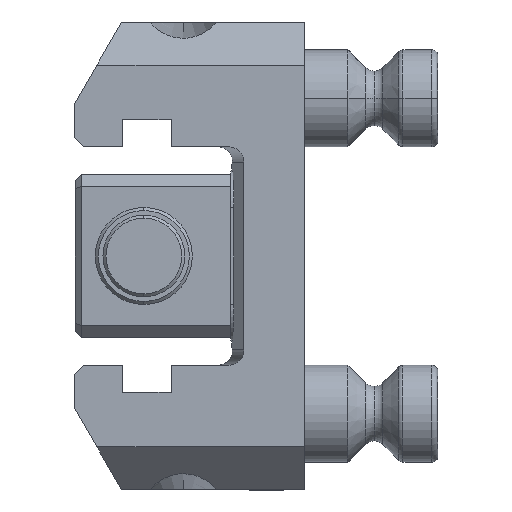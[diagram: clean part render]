
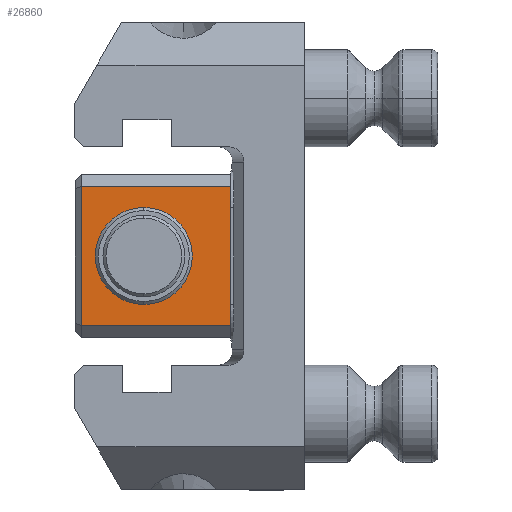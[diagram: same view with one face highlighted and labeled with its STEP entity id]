
A CAD part, left-side view. The second image highlights one B-rep face of the part: STEP entity #26860.
In plain terms, the highlighted planar face has unit normal (-1, 0, 0).
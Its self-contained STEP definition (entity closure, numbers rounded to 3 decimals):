
#498 = VERTEX_POINT ( 'NONE', #15284 ) ;
#716 = CARTESIAN_POINT ( 'NONE',  ( -7.5, 36.85, -11.5 ) ) ;
#1129 = VECTOR ( 'NONE', #35674, 1000. ) ;
#1675 = LINE ( 'NONE', #41376, #47918 ) ;
#1694 = CIRCLE ( 'NONE', #29201, 8. ) ;
#3660 = DIRECTION ( 'NONE',  ( 0., 0., -1. ) ) ;
#4103 = CARTESIAN_POINT ( 'NONE',  ( -7.5, 12.2, 11.5 ) ) ;
#6088 = ORIENTED_EDGE ( 'NONE', *, *, #47693, .F. ) ;
#10627 = EDGE_CURVE ( 'NONE', #28646, #25577, #30007, .T. ) ;
#11080 = PLANE ( 'NONE',  #32238 ) ;
#11829 = ORIENTED_EDGE ( 'NONE', *, *, #30235, .T. ) ;
#13612 = CARTESIAN_POINT ( 'NONE',  ( -7.5, 12.2, -13.5 ) ) ;
#14004 = DIRECTION ( 'NONE',  ( 1., 0., 0. ) ) ;
#14966 = LINE ( 'NONE', #716, #22413 ) ;
#15074 = AXIS2_PLACEMENT_3D ( 'NONE', #39885, #14004, #40381 ) ;
#15284 = CARTESIAN_POINT ( 'NONE',  ( -7.5, 12.2, -11.5 ) ) ;
#16163 = VERTEX_POINT ( 'NONE', #27721 ) ;
#16699 = ORIENTED_EDGE ( 'NONE', *, *, #26837, .T. ) ;
#18638 = CARTESIAN_POINT ( 'NONE',  ( -7.5, 26.5, 0. ) ) ;
#19794 = ORIENTED_EDGE ( 'NONE', *, *, #20557, .T. ) ;
#20557 = EDGE_CURVE ( 'NONE', #25577, #28646, #1694, .T. ) ;
#21510 = DIRECTION ( 'NONE',  ( 0., 0., -1. ) ) ;
#22413 = VECTOR ( 'NONE', #3660, 1000. ) ;
#24058 = EDGE_LOOP ( 'NONE', ( #11829, #31291, #16699, #6088 ) ) ;
#24325 = DIRECTION ( 'NONE',  ( 0., 0., 1. ) ) ;
#24954 = VECTOR ( 'NONE', #21510, 1000. ) ;
#25577 = VERTEX_POINT ( 'NONE', #29020 ) ;
#26232 = CARTESIAN_POINT ( 'NONE',  ( -7.5, 26.5, -8. ) ) ;
#26300 = DIRECTION ( 'NONE',  ( 1., 0., 0. ) ) ;
#26837 = EDGE_CURVE ( 'NONE', #16163, #498, #1675, .T. ) ;
#26860 = ADVANCED_FACE ( 'NONE', ( #34462, #35362 ), #11080, .T. ) ;
#27721 = CARTESIAN_POINT ( 'NONE',  ( -7.5, 36.85, -11.5 ) ) ;
#28248 = DIRECTION ( 'NONE',  ( -1., 0., 0. ) ) ;
#28646 = VERTEX_POINT ( 'NONE', #26232 ) ;
#29020 = CARTESIAN_POINT ( 'NONE',  ( -7.5, 26.5, 8. ) ) ;
#29201 = AXIS2_PLACEMENT_3D ( 'NONE', #18638, #26300, #33899 ) ;
#30007 = CIRCLE ( 'NONE', #15074, 8. ) ;
#30235 = EDGE_CURVE ( 'NONE', #43059, #35625, #35409, .T. ) ;
#30467 = EDGE_CURVE ( 'NONE', #35625, #16163, #14966, .T. ) ;
#31291 = ORIENTED_EDGE ( 'NONE', *, *, #30467, .T. ) ;
#32238 = AXIS2_PLACEMENT_3D ( 'NONE', #46713, #28248, #24325 ) ;
#33899 = DIRECTION ( 'NONE',  ( 0., 0., 1. ) ) ;
#34462 = FACE_BOUND ( 'NONE', #40590, .T. ) ;
#35362 = FACE_OUTER_BOUND ( 'NONE', #24058, .T. ) ;
#35409 = LINE ( 'NONE', #38913, #1129 ) ;
#35625 = VERTEX_POINT ( 'NONE', #41495 ) ;
#35674 = DIRECTION ( 'NONE',  ( 0., 1., 0. ) ) ;
#37394 = ORIENTED_EDGE ( 'NONE', *, *, #10627, .T. ) ;
#38403 = DIRECTION ( 'NONE',  ( 0., -1., 0. ) ) ;
#38776 = LINE ( 'NONE', #13612, #24954 ) ;
#38913 = CARTESIAN_POINT ( 'NONE',  ( -7.5, 37.85, 11.5 ) ) ;
#39885 = CARTESIAN_POINT ( 'NONE',  ( -7.5, 26.5, 0. ) ) ;
#40381 = DIRECTION ( 'NONE',  ( 0., 0., 1. ) ) ;
#40590 = EDGE_LOOP ( 'NONE', ( #19794, #37394 ) ) ;
#41376 = CARTESIAN_POINT ( 'NONE',  ( -7.5, 12.2, -11.5 ) ) ;
#41495 = CARTESIAN_POINT ( 'NONE',  ( -7.5, 36.85, 11.5 ) ) ;
#43059 = VERTEX_POINT ( 'NONE', #4103 ) ;
#46713 = CARTESIAN_POINT ( 'NONE',  ( -7.5, 37.85, 13.5 ) ) ;
#47693 = EDGE_CURVE ( 'NONE', #43059, #498, #38776, .T. ) ;
#47918 = VECTOR ( 'NONE', #38403, 1000. ) ;
